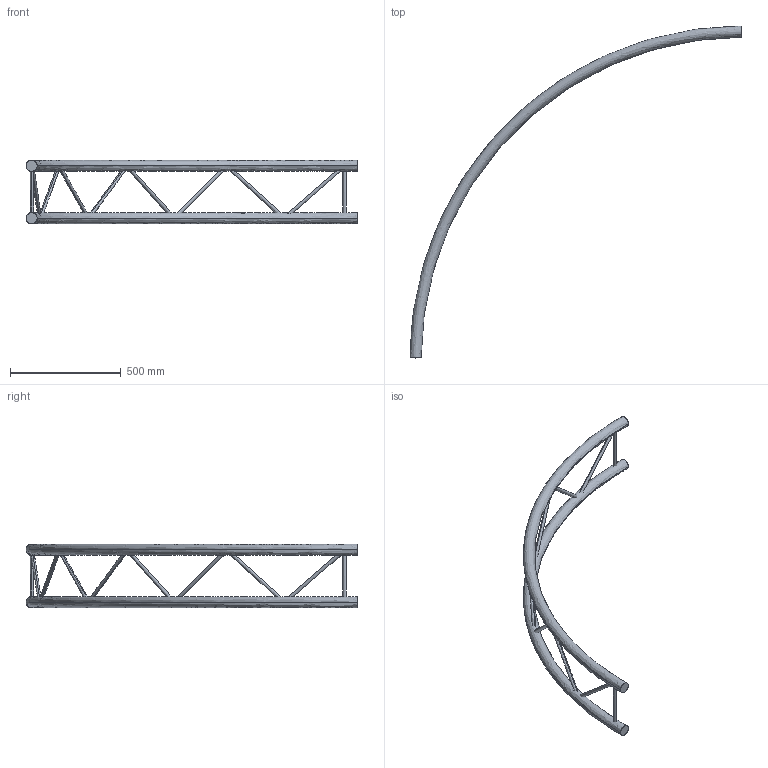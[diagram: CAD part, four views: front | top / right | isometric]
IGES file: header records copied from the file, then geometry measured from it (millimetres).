
Start section: SolidWorks IGES file using analytic representation for surfaces
Global section: file name: K:\BIBLIO\asd_biblio\EX290\Cercles\EXC290V\EXC29300V\EXC29300V.IGS; native system: SolidWorks 2009; preprocessor: SolidWorks 2009; author: des3; date: 091026.102908; units: millimetre
Bounding box: 1500 x 1500 x 287 mm (x, y, z)
Surface area: 885928.5 mm2 (no closed solid volume)
Topology: 0 solids, 0 shells, 38 faces, 1463 edges, 1463 vertices
Faces by surface type: revolution 20, bspline 18
